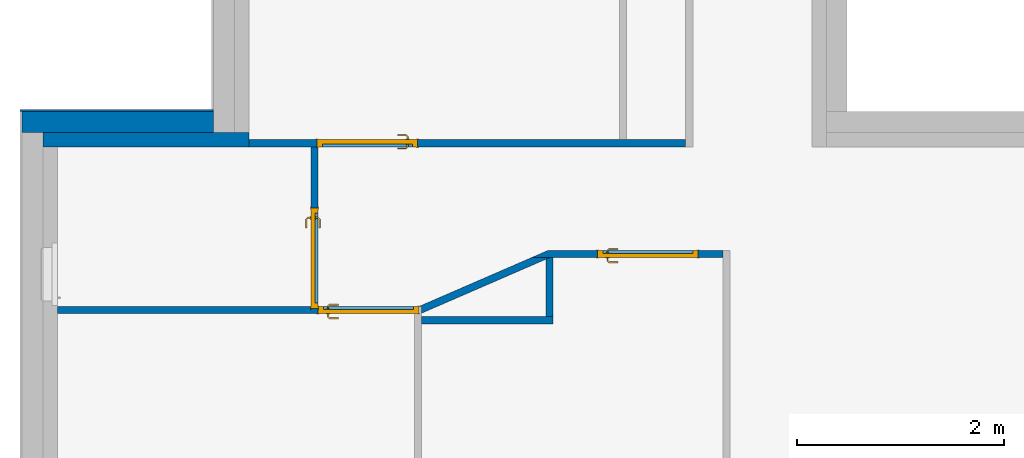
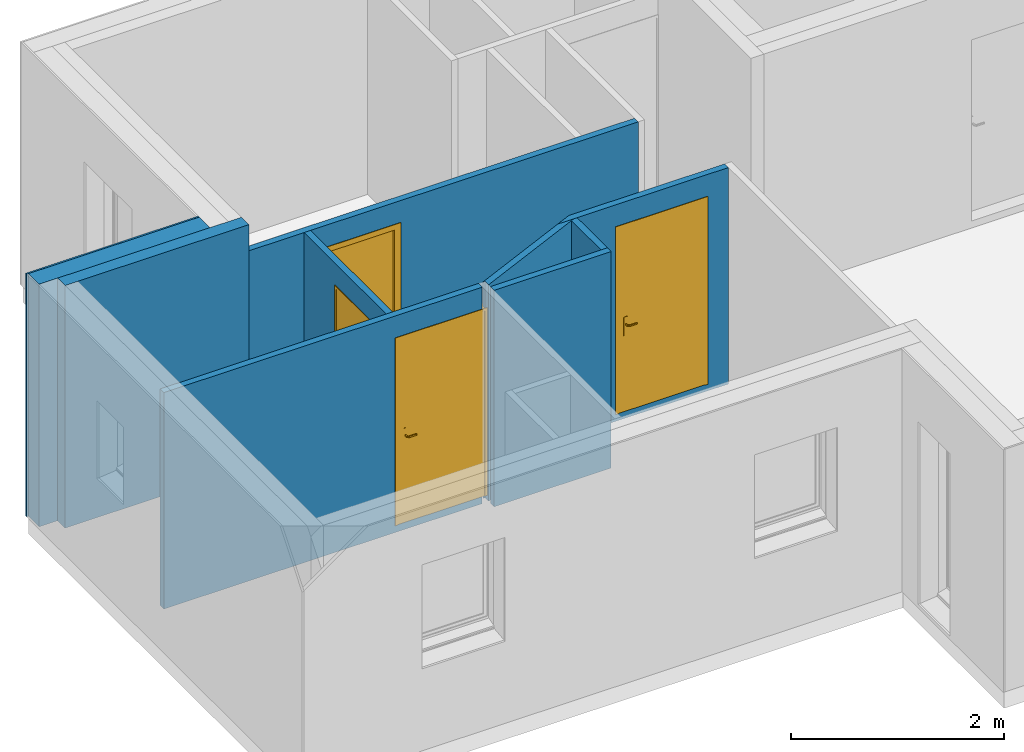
"""IFC2X3 building model written with IfcOpenShell, lengths in centimetres."""

from ifc_helpers import new_model, entity, si_unit, converted_unit, derived_unit, direction, frame, frame_2d, origin, place, context, subcontext, project, spatial, polyline, rectangle, outline, extrude, faceted_brep, source, transform, mapped, material, material_list, layer, layer_set, layer_usage, type_object, type_shapes, element, fill, save


model = new_model("IFC2X3")

# Units and contexts
model_context = context("Model", 3, precision=0.001, world=origin(), true_north=direction((6.123031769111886e-17, 1.0)))
body_context = subcontext(model_context, "Body", "Model", "MODEL_VIEW")
ifc_project = project(units=[si_unit("LENGTHUNIT", "METRE", prefix="CENTI"), si_unit("AREAUNIT", "SQUARE_METRE"), si_unit("VOLUMEUNIT", "CUBIC_METRE"), converted_unit("PLANEANGLEUNIT", "DEGREE", entity("IfcRatioMeasure", 0.017453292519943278), si_unit("PLANEANGLEUNIT", "RADIAN"), dimensions=[0, 0, 0, 0, 0, 0, 0]), si_unit("MASSUNIT", "GRAM", prefix="KILO"), derived_unit("MASSDENSITYUNIT", [(si_unit("MASSUNIT", "GRAM", prefix="KILO"), 1), (si_unit("LENGTHUNIT", "METRE"), -3)]), derived_unit("MOMENTOFINERTIAUNIT", [(si_unit("LENGTHUNIT", "METRE"), 4)]), si_unit("TIMEUNIT", "SECOND"), si_unit("FREQUENCYUNIT", "HERTZ"), si_unit("THERMODYNAMICTEMPERATUREUNIT", "DEGREE_CELSIUS"), derived_unit("THERMALTRANSMITTANCEUNIT", [(si_unit("MASSUNIT", "GRAM", prefix="KILO"), 1), (si_unit("THERMODYNAMICTEMPERATUREUNIT", "KELVIN"), -1), (si_unit("TIMEUNIT", "SECOND"), -3)]), derived_unit("VOLUMETRICFLOWRATEUNIT", [(si_unit("LENGTHUNIT", "METRE"), 3), (si_unit("TIMEUNIT", "SECOND"), -1)]), derived_unit("MASSFLOWRATEUNIT", [(si_unit("MASSUNIT", "GRAM", prefix="KILO"), 1), (si_unit("TIMEUNIT", "SECOND"), -1)]), derived_unit("ROTATIONALFREQUENCYUNIT", [(si_unit("TIMEUNIT", "SECOND"), -1)]), si_unit("ELECTRICCURRENTUNIT", "AMPERE"), si_unit("ELECTRICVOLTAGEUNIT", "VOLT"), si_unit("POWERUNIT", "WATT"), si_unit("FORCEUNIT", "NEWTON", prefix="KILO"), si_unit("ILLUMINANCEUNIT", "LUX"), si_unit("LUMINOUSFLUXUNIT", "LUMEN"), si_unit("LUMINOUSINTENSITYUNIT", "CANDELA"), derived_unit("USERDEFINED", [(si_unit("MASSUNIT", "GRAM", prefix="KILO"), -1), (si_unit("LENGTHUNIT", "METRE"), -2), (si_unit("TIMEUNIT", "SECOND"), 3), (si_unit("LUMINOUSFLUXUNIT", "LUMEN"), 1)]), derived_unit("SOUNDPOWERUNIT", [(si_unit("MASSUNIT", "GRAM", prefix="KILO"), 1), (si_unit("LENGTHUNIT", "METRE"), 2), (si_unit("TIMEUNIT", "SECOND"), -3)]), derived_unit("SOUNDPRESSUREUNIT", [(si_unit("MASSUNIT", "GRAM", prefix="KILO"), 1), (si_unit("LENGTHUNIT", "METRE"), -1), (si_unit("TIMEUNIT", "SECOND"), -2)]), derived_unit("LINEARVELOCITYUNIT", [(si_unit("LENGTHUNIT", "METRE"), 1), (si_unit("TIMEUNIT", "SECOND"), -1)]), si_unit("PRESSUREUNIT", "PASCAL"), derived_unit("USERDEFINED", [(si_unit("LENGTHUNIT", "METRE"), -2), (si_unit("MASSUNIT", "GRAM", prefix="KILO"), 1), (si_unit("TIMEUNIT", "SECOND"), -2)]), derived_unit("LINEARFORCEUNIT", [(si_unit("MASSUNIT", "GRAM", prefix="KILO"), 1), (si_unit("LENGTHUNIT", "METRE"), 1), (si_unit("TIMEUNIT", "SECOND"), -2), (si_unit("LENGTHUNIT", "METRE"), -1)]), derived_unit("PLANARFORCEUNIT", [(si_unit("MASSUNIT", "GRAM", prefix="KILO"), 1), (si_unit("LENGTHUNIT", "METRE"), 1), (si_unit("TIMEUNIT", "SECOND"), -2), (si_unit("LENGTHUNIT", "METRE"), -2)])], contexts=[model_context])

# Site, building, storey
site_placement = place(None, origin())
site = spatial("IfcSite", under=ifc_project, at=site_placement, Name="Default", CompositionType="ELEMENT")
building_placement = place(site_placement, origin())
building = spatial("IfcBuilding", under=site, at=building_placement, CompositionType="ELEMENT")
storey_1_placement = place(building_placement, frame((0.0, 0.0, -8.0)))
storey_1 = spatial("IfcBuildingStorey", under=building, at=storey_1_placement, Name="-0.08_Dessus plancher", CompositionType="ELEMENT", Elevation=-8.000000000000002)

# Walls
ifc_material_1 = material(Name="Maçonnerie - Béton")
ifc_layer_1 = layer(ifc_material_1, 20.0)
ifc_layer_set_1 = layer_set([ifc_layer_1], Name="Mur de base:Mur 20")
ifc_layer_usage_1 = layer_usage(ifc_layer_set_1, "AXIS2", "POSITIVE", -10.0)
wall_type_1 = type_object("IfcWallType", Name="Mur de base:Mur 20", PredefinedType="STANDARD", material=ifc_layer_set_1)
wall_1_placement = place(storey_1_placement, frame((-1446.8253630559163, 590.6042960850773, 0.0), z_axis=(0.0, 0.0, 1.0), x_axis=(-1.0, 0.0, 0.0)))
element("IfcWallStandardCase", 1, at=wall_1_placement, inside=storey_1, type_object=wall_type_1, material=ifc_layer_usage_1, Name="Mur de base:Mur 20", ObjectType="Mur de base:Mur 20", context=body_context, shape_type="SweptSolid", body=[
    extrude(rectangle(XDim=185.0000000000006, YDim=20.0, at=frame_2d((92.5000000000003, -1.9539925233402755e-14), x_axis=(-1.0, 0.0))), origin(), (0.0, 0.0, 1.0), 278.00000000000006),
])
ifc_material_2 = material(Name="Maçonnerie - Enduit")
ifc_layer_2 = layer(ifc_material_2, 2.0)
ifc_layer_set_2 = layer_set([ifc_layer_2], Name="Mur de base:Enduit 2")
ifc_layer_usage_2 = layer_usage(ifc_layer_set_2, "AXIS2", "POSITIVE", -1.0)
wall_type_2 = type_object("IfcWallType", Name="Mur de base:Enduit 2", PredefinedType="STANDARD", material=ifc_layer_set_2)
wall_2_placement = place(storey_1_placement, frame((-1446.8253630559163, 601.6042960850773, 0.0), z_axis=(0.0, 0.0, 1.0), x_axis=(-1.0, 0.0, 0.0)))
element("IfcWallStandardCase", 2, at=wall_2_placement, inside=storey_1, type_object=wall_type_2, material=ifc_layer_usage_2, Name="Mur de base:Enduit 2", ObjectType="Mur de base:Enduit 2", context=body_context, shape_type="SweptSolid", body=[
    extrude(rectangle(XDim=187.00000000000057, YDim=1.9999999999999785, at=frame_2d((93.50000000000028, 3.497202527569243e-15), x_axis=(-1.0, 0.0))), origin(), (0.0, 0.0, 1.0), 278.00000000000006),
])
ifc_material_3 = material(Name="Isolant rigide")
ifc_layer_3 = layer(ifc_material_3, 14.0)
ifc_layer_set_3 = layer_set([ifc_layer_3], Name="Mur de base:Doublage 14")
ifc_layer_usage_3 = layer_usage(ifc_layer_set_3, "AXIS2", "NEGATIVE", 7.0)
wall_type_3 = type_object("IfcWallType", Name="Mur de base:Doublage 14", PredefinedType="STANDARD", material=ifc_layer_set_3)
wall_3_placement = place(storey_1_placement, frame((-1611.825363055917, 573.6042960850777, 0.0)))
element("IfcWallStandardCase", 3, at=wall_3_placement, inside=storey_1, type_object=wall_type_3, material=ifc_layer_usage_3, Name="Mur de base:Doublage 14", ObjectType="Mur de base:Doublage 14", context=body_context, shape_type="SweptSolid", body=[
    extrude(rectangle(XDim=199.00000000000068, YDim=14.000000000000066, at=frame_2d((99.50000000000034, 2.4424906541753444e-14), x_axis=(-1.0, 0.0))), origin(), (0.0, 0.0, 1.0), 278.00000000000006),
])

# Wall, opening
ifc_material_4 = material(Name="Mur par défaut")
ifc_layer_4 = layer(ifc_material_4, 7.0)
ifc_layer_set_4 = layer_set([ifc_layer_4], Name="Mur de base:Cloison 7cm")
ifc_layer_usage_4 = layer_usage(ifc_layer_set_4, "AXIS2", "NEGATIVE", 3.4999999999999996)
wall_type_4 = type_object("IfcWallType", Name="Mur de base:Cloison 7cm", PredefinedType="STANDARD", material=ifc_layer_set_4)
wall_4_placement = place(storey_1_placement, frame((-990.8253630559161, 570.1042960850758, 0.0), z_axis=(0.0, 0.0, 1.0), x_axis=(-1.0, 0.0, 0.0)))
wall_4 = element("IfcWallStandardCase", 4, at=wall_4_placement, inside=storey_1, type_object=wall_type_4, material=ifc_layer_usage_4, Name="Mur de base:Cloison 7cm", ObjectType="Mur de base:Cloison 7cm", context=body_context, shape_type="SweptSolid", body=[
    extrude(rectangle(XDim=422.0000000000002, YDim=7.000000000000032, at=frame_2d((211.0000000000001, 1.5987211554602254e-14), x_axis=(-1.0, 0.0))), origin(), (0.0, 0.0, 1.0), 248.00000000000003),
])
opening_1_placement = place(wall_4_placement, frame((356.0, 3.499999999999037, 8.0)))
opening_1 = element("IfcOpeningElement", 5, at=opening_1_placement, cuts=wall_4, Name="Int. Simple:PP (0.90m x 2.10m):1", ObjectType="Opening", context=body_context, shape_type="SweptSolid", body=[
    extrude(rectangle(XDim=213.50000000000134, YDim=96.99999999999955, at=frame_2d((106.75000000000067, 48.49999999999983), x_axis=(1.0, 0.0))), frame((0.0, 0.0, 0.0), z_axis=(0.0, -1.0, 0.0), x_axis=(0.0, 0.0, 1.0)), (0.0, 0.0, 1.0), 6.999999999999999),
])

# Storey
storey_2_placement = place(building_placement, origin())
storey_2 = spatial("IfcBuildingStorey", under=building, at=storey_2_placement, Name="1_Rez-de-chaussée", CompositionType="ELEMENT", Elevation=-7.93413063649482e-11)

# Door
ifc_material_5 = material(Name="Finition Peinture - Blanc satiné")
ifc_material_6 = material(Name="Bois - Panneau de porte")
ifc_material_7 = material(Name="Bois - Cadre de porte")
ifc_material_list_1 = material_list([ifc_material_5, ifc_material_6, ifc_material_7])
ifc_material_list_2 = material_list([ifc_material_5, ifc_material_5, ifc_material_5, ifc_material_5, ifc_material_6, ifc_material_7, ifc_material_7, ifc_material_7])
door_style = type_object("IfcDoorStyle", Name="Int. Simple:PP (0.90m x 2.10m)", ConstructionType="NOTDEFINED", OperationType="NOTDEFINED", ParameterTakesPrecedence=False, Sizeable=False, material=ifc_material_list_2)
shared_shape = source(origin(), body_context, "Body", "Brep", [
    faceted_brep([(10.53527618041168, -0.5000000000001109, 86.6003983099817), (11.500000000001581, -0.5000000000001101, 87.0), (11.50000000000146, -0.5000000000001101, 108.0), (10.535276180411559, -0.5000000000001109, 108.39960169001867), (9.500000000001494, -0.5000000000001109, 108.5358983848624), (8.464723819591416, -0.5000000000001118, 108.39960169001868), (7.500000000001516, -0.5000000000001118, 108.0), (7.500000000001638, -0.5000000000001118, 87.0), (8.464723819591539, -0.5000000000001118, 86.6003983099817), (9.50000000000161, -0.5000000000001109, 86.46410161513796), (10.535276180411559, 0.0, 108.39960169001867), (11.500000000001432, 0.0, 108.0), (11.500000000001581, 0.0, 87.0), (10.53527618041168, 0.0, 86.6003983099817), (9.50000000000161, 0.0, 86.46410161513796), (8.464723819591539, 0.0, 86.6003983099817), (7.5000000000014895, 0.0, 87.0), (7.500000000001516, 0.0, 108.0), (8.464723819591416, 0.0, 108.39960169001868), (9.500000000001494, 0.0, 108.5358983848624)], [[[0, 1, 2, 3, 4, 5, 6, 7, 8, 9]], [[10, 11, 12, 13, 14, 15, 16, 17, 18, 19]], [[16, 15, 8, 7]], [[8, 15, 14, 9]], [[14, 13, 0, 9]], [[13, 12, 1, 0]], [[2, 1, 12, 11]], [[11, 10, 3, 2]], [[3, 10, 19, 4]], [[19, 18, 5, 4]], [[18, 17, 6, 5]], [[7, 6, 17, 16]]]),
    faceted_brep([(10.535276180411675, 4.0, 86.6003983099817), (11.500000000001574, 4.0, 87.0), (11.500000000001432, 4.0, 108.0), (10.535276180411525, 4.0, 108.39960169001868), (9.50000000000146, 4.0, 108.5358983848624), (8.464723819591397, 4.0, 108.39960169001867), (7.5000000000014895, 4.0, 108.0), (7.500000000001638, 4.0, 87.0), (8.464723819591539, 4.0, 86.60039830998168), (9.500000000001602, 4.0, 86.46410161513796), (10.535276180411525, 4.499999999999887, 108.39960169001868), (11.500000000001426, 4.499999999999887, 108.0), (11.500000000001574, 4.499999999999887, 87.0), (10.535276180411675, 4.499999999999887, 86.6003983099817), (9.500000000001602, 4.499999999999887, 86.46410161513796), (8.464723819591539, 4.499999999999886, 86.60039830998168), (7.500000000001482, 4.499999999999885, 87.0), (7.5000000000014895, 4.499999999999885, 108.0), (8.464723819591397, 4.499999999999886, 108.39960169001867), (9.50000000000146, 4.499999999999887, 108.5358983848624)], [[[0, 1, 2, 3, 4, 5, 6, 7, 8, 9]], [[10, 11, 12, 13, 14, 15, 16, 17, 18, 19]], [[11, 10, 3, 2]], [[3, 10, 19, 4]], [[19, 18, 5, 4]], [[18, 17, 6, 5]], [[7, 6, 17, 16]], [[16, 15, 8, 7]], [[8, 15, 14, 9]], [[14, 13, 0, 9]], [[13, 12, 1, 0]], [[2, 1, 12, 11]]]),
    faceted_brep([(9.297470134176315, -0.5000000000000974, 100.77804408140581), (9.702529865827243, -0.5000000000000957, 100.77804408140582), (10.100000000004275, -0.500000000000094, 100.6999999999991), (10.10000000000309, -0.500000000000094, 99.30000000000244), (9.702529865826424, -0.5000000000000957, 99.22195591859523), (9.297470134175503, -0.5000000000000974, 99.221955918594), (8.89999999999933, -0.500000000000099, 99.29999999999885), (8.899999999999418, -0.500000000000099, 100.69999999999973), (8.899999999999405, -3.2650950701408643, 100.69999999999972), (9.2974701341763, -3.100457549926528, 100.77804408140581), (10.90235851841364, -4.7053459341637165, 100.77804408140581), (11.07013975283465, -4.300286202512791, 100.77804408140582), (9.702529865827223, -2.9326763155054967, 100.77804408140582), (10.100000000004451, -2.7680387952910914, 100.69999999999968), (10.100000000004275, -2.7680387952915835, 99.30000000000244), (9.702529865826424, -2.932676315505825, 99.22195591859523), (11.070139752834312, -4.3002862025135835, 99.22195591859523), (10.902358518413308, -4.705345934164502, 99.221955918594), (9.297470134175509, -3.100457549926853, 99.221955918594), (8.899999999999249, -3.2650950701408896, 99.29999999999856), (10.737720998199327, -5.102816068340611, 100.69999999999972), (11.234777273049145, -3.9028160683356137, 100.69999999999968), (11.234777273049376, -3.902816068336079, 99.30000000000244), (10.737720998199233, -5.102816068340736, 99.29999999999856), (19.501864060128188, -5.102816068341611, 99.2999999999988), (19.501864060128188, -4.705345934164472, 99.22195591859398), (19.501864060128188, -4.300286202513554, 99.2219559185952), (19.501864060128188, -3.9028160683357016, 99.30000000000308), (19.501864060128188, -3.9028160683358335, 100.69999999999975), (19.501864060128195, -4.300286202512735, 100.7780440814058), (19.501864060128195, -4.7053459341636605, 100.77804408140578), (19.501864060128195, -5.102816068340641, 100.69999999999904), (14.730769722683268, -5.10281606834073, 100.69999999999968), (15.286001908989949, -4.502816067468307, 100.7878686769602), (15.368320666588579, -3.902816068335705, 100.6999999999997), (15.368320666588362, -3.902816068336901, 99.30000000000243), (15.286001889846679, -4.5028160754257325, 99.21213132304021), (14.730770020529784, -5.102816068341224, 99.2999999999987)], [[[0, 1, 2, 3, 4, 5, 6, 7]], [[8, 9, 0, 7]], [[9, 10, 11, 12, 1, 0]], [[12, 13, 2, 1]], [[3, 2, 13, 14]], [[14, 15, 4, 3]], [[15, 16, 17, 18, 5, 4]], [[18, 19, 6, 5]], [[7, 6, 19, 8]], [[20, 10, 9, 8]], [[11, 21, 13, 12]], [[14, 13, 21, 22]], [[22, 16, 15, 14]], [[17, 23, 19, 18]], [[8, 19, 23, 20]], [[24, 25, 26, 27, 28, 29, 30, 31]], [[32, 30, 33]], [[31, 30, 32]], [[10, 20, 32]], [[33, 34, 11]], [[21, 11, 34]], [[34, 29, 28]], [[30, 29, 33]], [[29, 34, 33]], [[10, 32, 33]], [[10, 33, 11]], [[22, 21, 34, 28, 27, 35]], [[35, 26, 36]], [[37, 36, 25]], [[22, 35, 16]], [[35, 27, 26]], [[24, 37, 25]], [[23, 17, 37]], [[37, 17, 36]], [[17, 16, 36]], [[16, 35, 36]], [[25, 36, 26]], [[20, 23, 37, 24, 31, 32]]]),
    faceted_brep([(9.29747013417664, 4.4999999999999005, 100.77804408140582), (8.899999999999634, 4.499999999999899, 100.69999999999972), (8.899999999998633, 4.499999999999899, 99.29999999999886), (9.297470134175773, 4.4999999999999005, 99.22195591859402), (9.702529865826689, 4.499999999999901, 99.22195591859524), (10.100000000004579, 4.499999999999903, 99.30000000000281), (10.100000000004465, 4.499999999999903, 100.69999999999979), (9.702529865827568, 4.499999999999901, 100.77804408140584), (10.100000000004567, 6.748520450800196, 99.30000000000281), (10.100000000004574, 6.748520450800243, 100.69999999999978), (9.702529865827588, 6.913157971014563, 100.77804408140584), (11.083890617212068, 8.294518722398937, 100.77804408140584), (10.916109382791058, 8.699578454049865, 100.77804408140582), (9.29747013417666, 7.080939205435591, 100.77804408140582), (8.899999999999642, 7.245576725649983, 100.69999999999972), (8.899999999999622, 7.245576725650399, 99.29999999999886), (9.297470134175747, 7.080939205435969, 99.22195591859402), (10.916109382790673, 8.699578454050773, 99.22195591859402), (11.083890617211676, 8.294518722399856, 99.22195591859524), (9.702529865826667, 6.913157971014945, 99.22195591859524), (11.248528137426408, 7.897048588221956, 99.30000000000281), (11.248528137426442, 7.897048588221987, 100.69999999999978), (10.751471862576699, 9.097048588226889, 100.69999999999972), (10.751471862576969, 9.097048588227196, 99.29999999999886), (19.504578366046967, 7.897048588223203, 99.30000000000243), (19.504578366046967, 8.294518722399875, 99.22195591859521), (19.504578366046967, 8.699578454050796, 99.22195591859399), (19.504578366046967, 9.097048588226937, 99.29999999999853), (19.504578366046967, 9.097048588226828, 100.69999999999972), (19.504578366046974, 8.699578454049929, 100.7780440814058), (19.504578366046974, 8.294518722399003, 100.77804408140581), (19.504578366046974, 7.897048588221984, 100.69999999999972), (15.376552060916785, 7.897048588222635, 99.3000000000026), (15.37655325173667, 7.897048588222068, 100.69999999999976), (15.294234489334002, 8.49704858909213, 100.78786867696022), (14.74452057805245, 9.097048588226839, 100.69999999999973), (14.744520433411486, 9.097048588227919, 99.29999999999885), (15.294234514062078, 8.497048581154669, 99.21213132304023)], [[[0, 1, 2, 3, 4, 5, 6, 7]], [[6, 5, 8, 9]], [[9, 10, 7, 6]], [[10, 11, 12, 13, 0, 7]], [[13, 14, 1, 0]], [[2, 1, 14, 15]], [[15, 16, 3, 2]], [[16, 17, 18, 19, 4, 3]], [[19, 8, 5, 4]], [[9, 8, 20, 21]], [[21, 11, 10, 9]], [[12, 22, 14, 13]], [[15, 14, 22, 23]], [[23, 17, 16, 15]], [[18, 20, 8, 19]], [[24, 25, 26, 27, 28, 29, 30, 31]], [[21, 20, 32, 24, 31, 33]], [[33, 30, 34]], [[35, 34, 29]], [[21, 33, 11]], [[33, 31, 30]], [[28, 35, 29]], [[22, 12, 35]], [[35, 12, 34]], [[12, 11, 34]], [[11, 33, 34]], [[29, 34, 30]], [[22, 35, 28, 27, 36, 23]], [[36, 26, 37]], [[27, 26, 36]], [[17, 23, 36]], [[37, 32, 18]], [[20, 18, 32]], [[32, 25, 24]], [[26, 25, 37]], [[25, 32, 37]], [[17, 36, 37]], [[17, 37, 18]]]),
    faceted_brep([(3.5000000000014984, 4.0, 210.0), (93.5000000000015, 4.0, 210.0), (93.5000000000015, 4.0, 0.0), (3.5000000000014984, 4.0, 0.0), (3.5000000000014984, 0.0, 210.0), (3.5000000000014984, 0.0, 0.0), (93.5000000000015, 0.0, 0.0), (93.5000000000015, 0.0, 210.0)], [[[0, 1, 2, 3]], [[4, 5, 6, 7]], [[1, 0, 4, 7]], [[2, 1, 7, 6]], [[3, 2, 6, 5]], [[0, 3, 5, 4]]]),
    faceted_brep([(0.0, 0.0, 0.0), (0.0, 7.0, 0.0), (5.0, 7.0, 0.0), (5.0, 4.0, 0.0), (3.4999999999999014, 4.0, 0.0), (3.4999999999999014, 0.0, 0.0), (0.0, 0.0, 213.50000000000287), (0.0, 7.0, 213.50000000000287), (97.0, 7.0, 213.50000000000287), (97.0, 7.0, 0.0), (92.0, 7.0, 0.0), (92.0, 7.0, 208.50000000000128), (5.0, 7.0, 208.50000000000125), (5.0, 4.0, 208.50000000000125), (92.0, 4.0, 208.50000000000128), (92.0, 4.0, 0.0), (93.49999999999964, 4.0, 0.0), (93.49999999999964, 4.0, 210.0), (3.4999999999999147, 4.0, 210.0), (3.4999999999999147, 0.0, 210.0), (93.49999999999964, 0.0, 210.0), (93.49999999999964, 0.0, 0.0), (97.0, 0.0, 0.0), (97.0, 0.0, 213.50000000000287)], [[[0, 1, 2, 3, 4, 5]], [[1, 0, 6, 7]], [[2, 1, 7, 8, 9, 10, 11, 12]], [[3, 2, 12, 13]], [[4, 3, 13, 14, 15, 16, 17, 18]], [[5, 4, 18, 19]], [[0, 5, 19, 20, 21, 22, 23, 6]], [[8, 23, 22, 9]], [[22, 21, 16, 15, 10, 9]], [[14, 11, 10, 15]], [[20, 17, 16, 21]], [[7, 6, 23, 8]], [[13, 12, 11, 14]], [[19, 18, 17, 20]]]),
    faceted_brep([(1.4999999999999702, 7.0, 0.0), (-1.4999999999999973, 7.0, 0.0), (-1.4999999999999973, 7.499999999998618, 0.0), (1.4999999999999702, 7.499999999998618, 0.0), (1.4999999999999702, 7.0, 212.0), (95.49999999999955, 7.0, 212.0), (95.49999999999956, 7.0, 0.0), (98.49999999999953, 7.0, 0.0), (98.49999999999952, 7.0, 215.0), (-1.4999999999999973, 7.0, 215.0), (-1.4999999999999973, 7.499999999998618, 215.0), (98.49999999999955, 7.499999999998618, 215.0), (98.49999999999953, 7.499999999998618, 0.0), (95.49999999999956, 7.499999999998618, 0.0), (95.49999999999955, 7.499999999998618, 212.0), (1.4999999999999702, 7.499999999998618, 212.0)], [[[0, 1, 2, 3]], [[1, 0, 4, 5, 6, 7, 8, 9]], [[2, 1, 9, 10]], [[3, 2, 10, 11, 12, 13, 14, 15]], [[0, 3, 15, 4]], [[6, 13, 12, 7]], [[5, 14, 13, 6]], [[11, 8, 7, 12]], [[10, 9, 8, 11]], [[4, 15, 14, 5]]]),
    faceted_brep([(-1.4999999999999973, -0.4999999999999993, 0.0), (1.4999999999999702, -0.4999999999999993, 0.0), (1.4999999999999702, -0.4999999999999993, 212.0), (95.49999999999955, -0.4999999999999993, 212.0), (95.49999999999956, -0.4999999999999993, 0.0), (98.49999999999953, -0.4999999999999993, 0.0), (98.49999999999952, -0.4999999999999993, 215.0), (-1.4999999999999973, -0.4999999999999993, 215.0), (-1.4999999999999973, 0.0, 0.0), (-1.4999999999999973, 0.0, 215.0), (1.4999999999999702, 0.0, 0.0), (98.49999999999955, 0.0, 215.0), (98.49999999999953, 0.0, 0.0), (95.49999999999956, 0.0, 0.0), (95.49999999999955, 0.0, 212.0), (1.4999999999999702, 0.0, 212.0)], [[[0, 1, 2, 3, 4, 5, 6, 7]], [[8, 0, 7, 9]], [[10, 8, 9, 11, 12, 13, 14, 15]], [[1, 10, 15, 2]], [[3, 14, 13, 4]], [[11, 6, 5, 12]], [[9, 7, 6, 11]], [[2, 15, 14, 3]], [[4, 13, 12, 5]], [[1, 0, 8, 10]]]),
])
type_shapes(door_style, [shared_shape])
door_1_placement = place(opening_1_placement, frame((-97.0, -7.0, 0.0)))
door_1 = element("IfcDoor", 6, at=door_1_placement, inside=storey_2, type_object=door_style, material=ifc_material_list_1, Name="Int. Simple:PP (0.90m x 2.10m)", ObjectType="Int. Simple:PP (0.90m x 2.10m)", OverallHeight=213.50000000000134, OverallWidth=96.9999999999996, context=body_context, shape_type="MappedRepresentation", body=[
    mapped(shared_shape, transform((0.0, 0.0, 0.0), scale=1.0)),
])

fill(opening_1, door_1)

# Wall, opening, door
ifc_layer_usage_5 = layer_usage(ifc_layer_set_4, "AXIS2", "NEGATIVE", 3.4999999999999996)
wall_5_placement = place(storey_1_placement, frame((-1349.3253630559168, 566.604296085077, 0.0), z_axis=(0.0, 0.0, 1.0), x_axis=(0.0, -1.0, 0.0)))
wall_5 = element("IfcWallStandardCase", 7, at=wall_5_placement, inside=storey_1, type_object=wall_type_4, material=ifc_layer_usage_5, Name="Mur de base:Cloison 7cm", ObjectType="Mur de base:Cloison 7cm", context=body_context, shape_type="SweptSolid", body=[
    extrude(rectangle(XDim=154.00000000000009, YDim=6.9999999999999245, at=frame_2d((77.00000000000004, 1.0169642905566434e-13), x_axis=(-1.0, 0.0))), origin(), (0.0, 0.0, 1.0), 248.00000000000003),
])
opening_2_placement = place(wall_5_placement, frame((156.0, 3.500000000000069, 8.0)))
opening_2 = element("IfcOpeningElement", 8, at=opening_2_placement, cuts=wall_5, Name="Int. Simple:PP (0.90m x 2.10m):1", ObjectType="Opening", context=body_context, shape_type="SweptSolid", body=[
    extrude(rectangle(XDim=213.50000000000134, YDim=96.99999999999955, at=frame_2d((106.75000000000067, 48.49999999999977), x_axis=(1.0, 0.0))), frame((0.0, 0.0, 0.0), z_axis=(0.0, -1.0, 0.0), x_axis=(0.0, 0.0, 1.0)), (0.0, 0.0, 1.0), 6.999999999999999),
])
ifc_material_list_3 = material_list([ifc_material_5, ifc_material_6, ifc_material_7])
door_2_placement = place(opening_2_placement, frame((-97.0, -7.0, 0.0)))
door_2 = element("IfcDoor", 9, at=door_2_placement, inside=storey_2, type_object=door_style, material=ifc_material_list_3, Name="Int. Simple:PP (0.90m x 2.10m)", ObjectType="Int. Simple:PP (0.90m x 2.10m)", OverallHeight=213.50000000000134, OverallWidth=96.99999999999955, context=body_context, shape_type="MappedRepresentation", body=[
    mapped(shared_shape, transform((0.0, 0.0, 0.0), scale=1.0)),
])
fill(opening_2, door_2)

# Wall, openings, door
ifc_layer_usage_6 = layer_usage(ifc_layer_set_4, "AXIS2", "NEGATIVE", 3.4999999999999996)
wall_6_placement = place(storey_1_placement, frame((-1252.8253630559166, 409.10429608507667, 0.0), z_axis=(0.0, 0.0, 1.0), x_axis=(-1.0, 0.0, 0.0)))
wall_6 = element("IfcWallStandardCase", 10, at=wall_6_placement, inside=storey_1, type_object=wall_type_4, material=ifc_layer_usage_6, Name="Mur de base:Cloison 7cm", ObjectType="Mur de base:Cloison 7cm", context=body_context, shape_type="SweptSolid", body=[
    extrude(rectangle(XDim=345.00000000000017, YDim=6.999999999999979, at=frame_2d((172.50000000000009, 6.217248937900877e-14), x_axis=(-1.0, 0.0))), origin(), (0.0, 0.0, 1.0), 248.00000000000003),
])
opening_3_placement = place(wall_6_placement, origin())
element("IfcOpeningElement", 11, at=opening_3_placement, cuts=wall_6, Name="Mur de base:Cloison 7cm", ObjectType="Opening", context=body_context, shape_type="SweptSolid", body=[
    extrude(rectangle(XDim=213.50000000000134, YDim=6.9999999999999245, at=frame_2d((1.0835776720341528e-13, 0.0), x_axis=(0.0, 1.0))), frame((96.50000000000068, -98.49999999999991, 114.74999999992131), z_axis=(0.0, 1.0, 0.0), x_axis=(-1.0, 0.0, 0.0)), (0.0, 0.0, 1.0), 96.99999999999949),
])
opening_4_placement = place(wall_6_placement, frame((-4.0, -3.499999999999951, 8.0)))
opening_4 = element("IfcOpeningElement", 12, at=opening_4_placement, cuts=wall_6, Name="Int. Simple:PP (0.90m x 2.10m):1", ObjectType="Opening", context=body_context, shape_type="SweptSolid", body=[
    extrude(rectangle(XDim=213.50000000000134, YDim=96.99999999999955, at=frame_2d((106.75000000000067, 48.49999999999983), x_axis=(1.0, 0.0))), frame((0.0, 0.0, 0.0), z_axis=(0.0, 1.0, 0.0), x_axis=(0.0, 0.0, 1.0)), (0.0, 0.0, 1.0), 6.999999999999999),
])
ifc_material_list_4 = material_list([ifc_material_5, ifc_material_6, ifc_material_7])
door_3_placement = place(opening_4_placement, frame((97.0, 7.0, 0.0), z_axis=(0.0, 0.0, 1.0), x_axis=(-1.0, 0.0, 0.0)))
door_3 = element("IfcDoor", 13, at=door_3_placement, inside=storey_2, type_object=door_style, material=ifc_material_list_4, Name="Int. Simple:PP (0.90m x 2.10m)", ObjectType="Int. Simple:PP (0.90m x 2.10m)", OverallHeight=213.50000000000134, OverallWidth=96.9999999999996, context=body_context, shape_type="MappedRepresentation", body=[
    mapped(shared_shape, transform((0.0, 0.0, 0.0), scale=1.0)),
])
fill(opening_4, door_3)

# Wall, opening, door
ifc_layer_usage_7 = layer_usage(ifc_layer_set_4, "AXIS2", "POSITIVE", -3.4999999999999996)
wall_7_placement = place(storey_1_placement, frame((-954.8253630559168, 463.1042960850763, 0.0), z_axis=(0.0, 0.0, 1.0), x_axis=(-1.0, 0.0, 0.0)))
wall_7 = element("IfcWallStandardCase", 14, at=wall_7_placement, inside=storey_1, type_object=wall_type_4, material=ifc_layer_usage_7, Name="Mur de base:Cloison 7cm", ObjectType="Mur de base:Cloison 7cm", context=body_context, shape_type="SweptSolid", body=[
    extrude(outline(polyline([(168.8876682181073, -3.4999999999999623), (185.01571203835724, 3.5000000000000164), (167.4340796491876, 3.5000000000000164), (164.0, 3.5000000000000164), (0.0, 3.5000000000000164), (0.0, -3.4999999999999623), (168.8876682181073, -3.4999999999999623)])), origin(), (0.0, 0.0, 1.0), 248.00000000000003),
])
opening_5_placement = place(wall_7_placement, frame((24.0, -3.4999999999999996, 8.0)))
opening_5 = element("IfcOpeningElement", 15, at=opening_5_placement, cuts=wall_7, Name="Int. Simple:PP (0.90m x 2.10m):1", ObjectType="Opening", context=body_context, shape_type="SweptSolid", body=[
    extrude(rectangle(XDim=213.50000000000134, YDim=96.99999999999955, at=frame_2d((106.75000000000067, 48.49999999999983), x_axis=(1.0, 0.0))), frame((0.0, 0.0, 0.0), z_axis=(0.0, 1.0, 0.0), x_axis=(0.0, 0.0, 1.0)), (0.0, 0.0, 1.0), 6.999999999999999),
])
ifc_material_list_5 = material_list([ifc_material_5, ifc_material_6, ifc_material_7])
door_4_placement = place(opening_5_placement, frame((97.0, 7.0, 0.0), z_axis=(0.0, 0.0, 1.0), x_axis=(-1.0, 0.0, 0.0)))
door_4 = element("IfcDoor", 16, at=door_4_placement, inside=storey_2, type_object=door_style, material=ifc_material_list_5, Name="Int. Simple:PP (0.90m x 2.10m)", ObjectType="Int. Simple:PP (0.90m x 2.10m)", OverallHeight=213.50000000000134, OverallWidth=96.9999999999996, context=body_context, shape_type="MappedRepresentation", body=[
    mapped(shared_shape, transform((0.0, 0.0, 0.0), scale=1.0)),
])
fill(opening_5, door_4)

# Walls
ifc_layer_usage_8 = layer_usage(ifc_layer_set_4, "AXIS2", "POSITIVE", -3.4999999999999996)
wall_8_placement = place(storey_1_placement, frame((-1123.6529424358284, 462.814928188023, 0.0), z_axis=(0.0, 0.0, 1.0), x_axis=(-0.9173234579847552, -0.39814278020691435, 0.0)))
element("IfcWallStandardCase", 17, at=wall_8_placement, inside=storey_1, type_object=wall_type_4, material=ifc_layer_usage_8, Name="Mur de base:Cloison 7cm", ObjectType="Mur de base:Cloison 7cm", context=body_context, shape_type="SweptSolid", body=[
    extrude(outline(polyline([(134.17614700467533, -3.5000000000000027), (132.06262801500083, -2.5826765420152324), (134.70267142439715, 3.4999999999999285), (3.887309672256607, 3.499999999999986), (0.0, 3.4999999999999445), (16.128043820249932, -3.499999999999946), (134.17614700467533, -3.5000000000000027)])), origin(), (0.0, 0.0, 1.0), 248.00000000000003),
])
ifc_layer_usage_9 = layer_usage(ifc_layer_set_4, "AXIS2", "NEGATIVE", 3.4999999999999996)
wall_9_placement = place(storey_1_placement, frame((-1245.8253630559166, 399.10429608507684, 0.0)))
element("IfcWallStandardCase", 18, at=wall_9_placement, inside=storey_1, type_object=wall_type_4, material=ifc_layer_usage_9, Name="Mur de base:Cloison 7cm", ObjectType="Mur de base:Cloison 7cm", context=body_context, shape_type="SweptSolid", body=[
    extrude(rectangle(XDim=127.00000000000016, YDim=7.000000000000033, at=frame_2d((63.50000000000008, 1.84297022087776e-14), x_axis=(-1.0, 0.0))), origin(), (0.0, 0.0, 1.0), 248.00000000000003),
])
ifc_layer_usage_10 = layer_usage(ifc_layer_set_4, "AXIS2", "NEGATIVE", 3.4999999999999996)
wall_10_placement = place(storey_1_placement, frame((-1122.3253630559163, 402.60429608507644, 0.0), z_axis=(0.0, 0.0, 1.0), x_axis=(0.0, 1.0, 0.0)))
element("IfcWallStandardCase", 19, at=wall_10_placement, inside=storey_1, type_object=wall_type_4, material=ifc_layer_usage_10, Name="Mur de base:Cloison 7cm", ObjectType="Mur de base:Cloison 7cm", context=body_context, shape_type="SweptSolid", body=[
    extrude(outline(polyline([(57.0, -3.499999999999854), (57.0, -0.06592035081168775), (55.45229571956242, 3.5000000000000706), (0.0, 3.5000000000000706), (0.0, -3.499999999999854), (57.0, -3.499999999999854)])), origin(), (0.0, 0.0, 1.0), 248.00000000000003),
])

save(model, "model.ifc")
